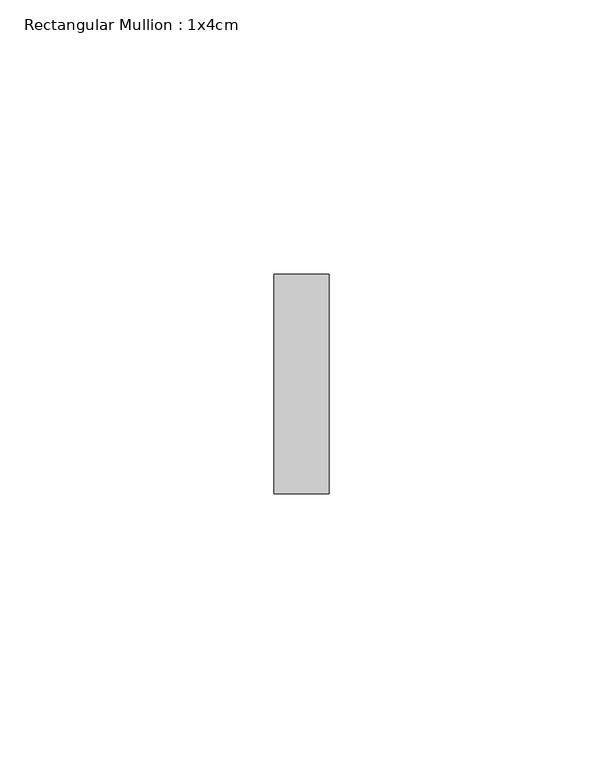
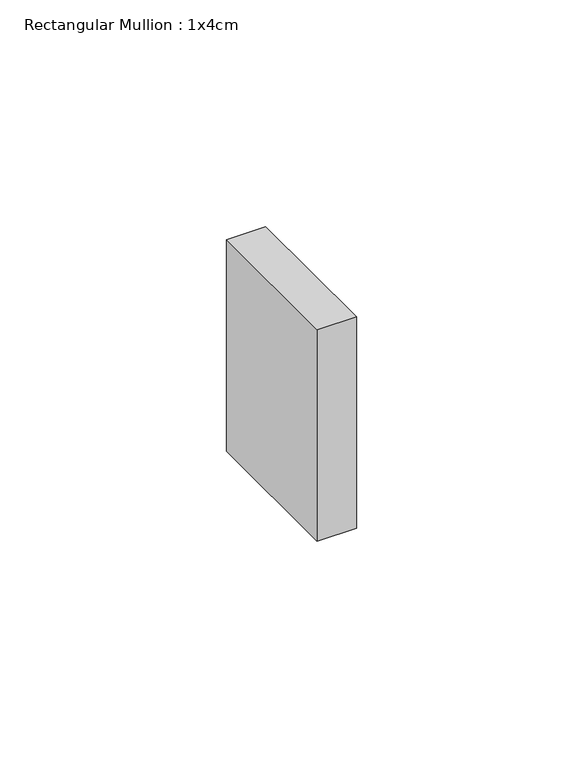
"""IFC4 building model written with IfcOpenShell, lengths in millimetres: member geometry, Rectangular Mullion : 1x4cm."""

from ifc_helpers import new_model, si_unit, frame, origin, place, context, project, spatial, polyline, outline, extrude, source, transform, mapped, element, save


def rectangular_mullion_1x4cm_b825e446(model_context):
    return source(origin(), model_context, "Body", "SweptSolid", [
        extrude(outline(polyline([(0.0, 20.0), (0.0, -20.0), (-10.0, -20.0), (-10.0, 20.0), (0.0, 20.0)])), frame((0.0, 0.0, -56.9418322), z_axis=(0.0, 0.0, 1.0), x_axis=(1.0, 0.0, 0.0)), (0.0, 0.0, 1.0), 56.9418322),
    ])


if __name__ == "__main__":
    model = new_model("IFC4")
    model_context = context("Model", 3, world=origin())
    ifc_project = project(units=[si_unit("LENGTHUNIT", "METRE", prefix="MILLI")], contexts=[model_context])
    site = spatial("IfcSite", under=ifc_project)
    building = spatial("IfcBuilding", under=site)
    placement = place(None, origin())
    rectangular_mullion_1x4cm_shape = rectangular_mullion_1x4cm_b825e446(model_context)
    element("IfcMember", 1, ObjectType="Rectangular Mullion : 1x4cm", at=placement, inside=building, context=model_context, shape_type="MappedRepresentation", body=[
        mapped(rectangular_mullion_1x4cm_shape, transform((0.0, 0.0, 0.0), x_axis=(1.0, 0.0, 0.0), y_axis=(0.0, 1.0, 0.0), z_axis=(0.0, 0.0, 1.0))),
    ])
    save(model, "model.ifc")
